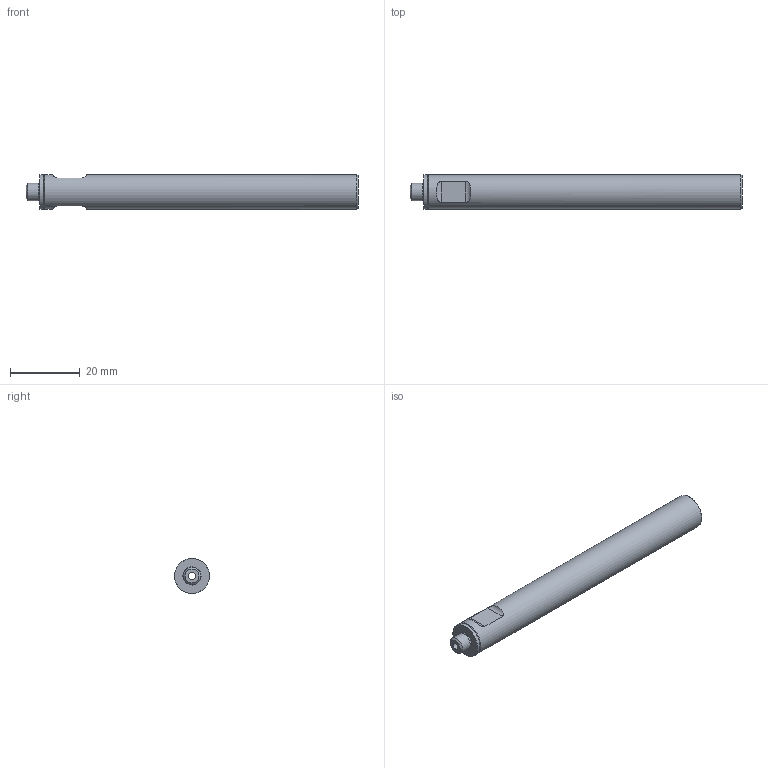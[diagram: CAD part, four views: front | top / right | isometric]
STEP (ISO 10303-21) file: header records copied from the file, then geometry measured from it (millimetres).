
FILE_DESCRIPTION(('STEP AP214'),'1');
FILE_NAME('CA.GSEG.100590.stp','2017-07-31T06:18:30',(' '),(' '),'Spatial InterOp 3D',' ',' ');
FILE_SCHEMA(('automotive_design'));
Length unit declared in the file: millimetre
Products named in the file (3): CA.08.09.05; GSEG.100590
Assembly tree (2 placements, depth 2):
  (unnamed)
    CA.08.09.05
    GSEG.100590
Bounding box: 95 x 10 x 10 mm (x, y, z)
Volume: 6047.7 mm3; surface area: 4313.2 mm2
Topology: 2 solids, 2 shells, 32 faces, 72 edges, 47 vertices
Faces by surface type: cylinder 15, plane 11, cone 6
Full cylindrical faces by diameter (mm): 2 x1, 4.2 x2, 4.5 x1, 5 x1, 5.2 x1, 10 x2
Entity records: 1214 total; most frequent: CARTESIAN_POINT 264, DIRECTION 144, ORIENTED_EDGE 98, AXIS2_PLACEMENT_3D 65, EDGE_LOOP 54, EDGE_CURVE 49, FACE_OUTER_BOUND 40, VERTEX_POINT 39
